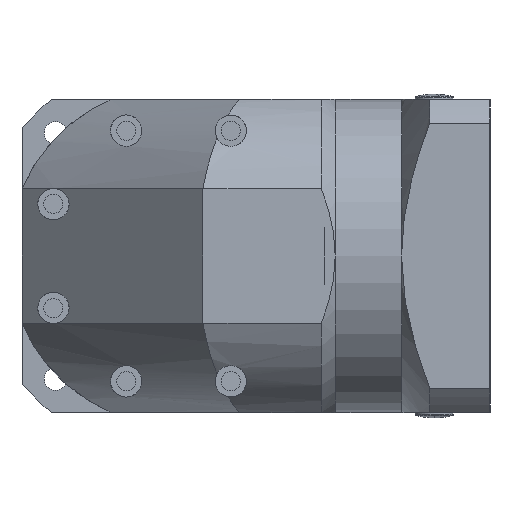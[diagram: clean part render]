
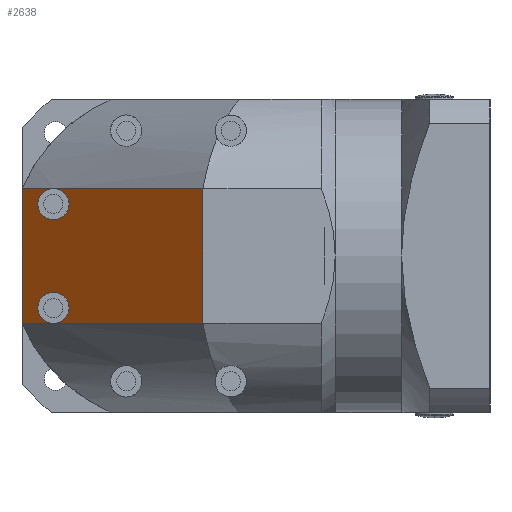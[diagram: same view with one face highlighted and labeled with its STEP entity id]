
A CAD part, left-side view. The second image highlights one B-rep face of the part: STEP entity #2638.
In plain terms, the highlighted planar face has unit normal (-0.707, 0.707, 0).
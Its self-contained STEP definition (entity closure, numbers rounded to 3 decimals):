
#451=PLANE('',#16281);
#722=LINE('',#22902,#1290);
#723=LINE('',#22911,#1291);
#738=LINE('',#23056,#1306);
#739=LINE('',#23061,#1307);
#740=LINE('',#23062,#1308);
#741=LINE('',#23064,#1309);
#1290=VECTOR('',#18277,1.);
#1291=VECTOR('',#18278,1.);
#1306=VECTOR('',#18339,1.);
#1307=VECTOR('',#18342,1.);
#1308=VECTOR('',#18343,1.);
#1309=VECTOR('',#18346,1.);
#1862=ELLIPSE('',#16279,6.364,4.5);
#1863=ELLIPSE('',#16280,6.364,4.5);
#2638=ADVANCED_FACE('',(#3604),#451,.F.);
#3604=FACE_OUTER_BOUND('',#4335,.T.);
#4335=EDGE_LOOP('',(#6678,#6679,#6680,#6681,#6682,#6683,#6684,#6685));
#6678=ORIENTED_EDGE('',*,*,#13162,.F.);
#6679=ORIENTED_EDGE('',*,*,#13163,.T.);
#6680=ORIENTED_EDGE('',*,*,#13164,.F.);
#6681=ORIENTED_EDGE('',*,*,#13165,.F.);
#6682=ORIENTED_EDGE('',*,*,#13126,.F.);
#6683=ORIENTED_EDGE('',*,*,#13166,.F.);
#6684=ORIENTED_EDGE('',*,*,#13124,.F.);
#6685=ORIENTED_EDGE('',*,*,#13167,.T.);
#11446=VERTEX_POINT('',#22884);
#11450=VERTEX_POINT('',#22901);
#11451=VERTEX_POINT('',#22903);
#11452=VERTEX_POINT('',#22910);
#11465=VERTEX_POINT('',#22999);
#11478=VERTEX_POINT('',#23057);
#11479=VERTEX_POINT('',#23058);
#11480=VERTEX_POINT('',#23060);
#13124=EDGE_CURVE('',#11450,#11451,#722,.T.);
#13126=EDGE_CURVE('',#11452,#11446,#723,.T.);
#13162=EDGE_CURVE('',#11478,#11479,#738,.T.);
#13163=EDGE_CURVE('',#11478,#11480,#1862,.T.);
#13164=EDGE_CURVE('',#11465,#11480,#739,.T.);
#13165=EDGE_CURVE('',#11446,#11465,#740,.T.);
#13166=EDGE_CURVE('',#11451,#11452,#1863,.T.);
#13167=EDGE_CURVE('',#11450,#11479,#741,.T.);
#16279=AXIS2_PLACEMENT_3D('',#23059,#18340,#18341);
#16280=AXIS2_PLACEMENT_3D('',#23063,#18344,#18345);
#16281=AXIS2_PLACEMENT_3D('',#23065,#18347,#18348);
#18277=DIRECTION('',(-0.707,-0.707,0.));
#18278=DIRECTION('',(-0.707,-0.707,0.));
#18339=DIRECTION('',(0.707,0.707,0.));
#18340=DIRECTION('',(0.707,-0.707,0.));
#18341=DIRECTION('',(-0.707,-0.707,0.));
#18342=DIRECTION('',(0.707,0.707,0.));
#18343=DIRECTION('',(0.,0.,-1.));
#18344=DIRECTION('',(-0.707,0.707,0.));
#18345=DIRECTION('',(-0.707,-0.707,0.));
#18346=DIRECTION('',(0.,0.,-1.));
#18347=DIRECTION('',(0.707,-0.707,0.));
#18348=DIRECTION('',(0.707,0.707,0.));
#22884=CARTESIAN_POINT('',(-50.,-7.,19.391));
#22901=CARTESIAN_POINT('',(2.,45.,19.391));
#22902=CARTESIAN_POINT('',(-85.518,-42.518,19.391));
#22903=CARTESIAN_POINT('',(-6.667,36.333,19.391));
#22910=CARTESIAN_POINT('',(-7.403,35.597,19.391));
#22911=CARTESIAN_POINT('',(-85.518,-42.518,19.391));
#22999=CARTESIAN_POINT('',(-50.,-7.,-19.391));
#23056=CARTESIAN_POINT('',(-85.518,-42.518,-19.391));
#23057=CARTESIAN_POINT('',(-6.667,36.333,-19.391));
#23058=CARTESIAN_POINT('',(2.,45.,-19.391));
#23059=CARTESIAN_POINT('',(-7.035,35.965,-14.906));
#23060=CARTESIAN_POINT('',(-7.403,35.597,-19.391));
#23061=CARTESIAN_POINT('',(-85.518,-42.518,-19.391));
#23062=CARTESIAN_POINT('',(-50.,-7.,45.));
#23063=CARTESIAN_POINT('',(-7.035,35.965,14.906));
#23064=CARTESIAN_POINT('',(2.,45.,45.));
#23065=CARTESIAN_POINT('',(2.,45.,45.));
